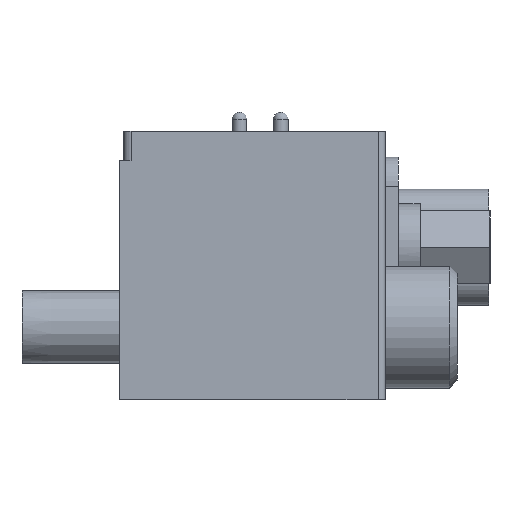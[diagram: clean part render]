
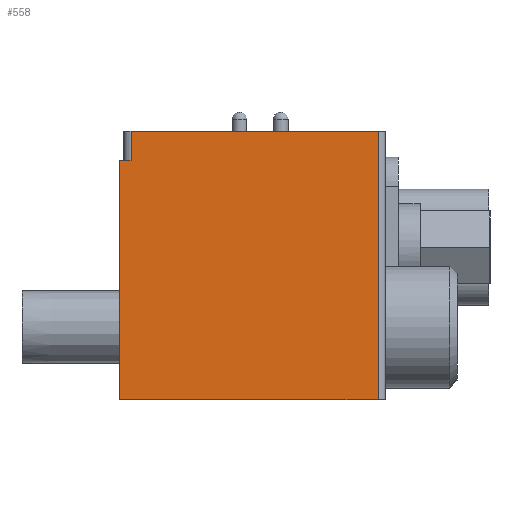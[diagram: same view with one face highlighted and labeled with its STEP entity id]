
A CAD part, left-side view. The second image highlights one B-rep face of the part: STEP entity #558.
In plain terms, the highlighted planar face has unit normal (-1, 0, 0).
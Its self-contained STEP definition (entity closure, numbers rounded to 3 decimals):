
#558=ADVANCED_FACE('',(#1363),#1364,.F.);
#1363=FACE_OUTER_BOUND('',#2486,.T.);
#1364=PLANE('',#2487);
#2486=EDGE_LOOP('',(#3953,#3954,#3955,#3956,#3957,#3958));
#2487=AXIS2_PLACEMENT_3D('',#3959,#3960,#3961);
#3953=ORIENTED_EDGE('',*,*,#5909,.T.);
#3954=ORIENTED_EDGE('',*,*,#5722,.F.);
#3955=ORIENTED_EDGE('',*,*,#5910,.F.);
#3956=ORIENTED_EDGE('',*,*,#5911,.T.);
#3957=ORIENTED_EDGE('',*,*,#5881,.T.);
#3958=ORIENTED_EDGE('',*,*,#5786,.F.);
#3959=CARTESIAN_POINT('',(-32.5,-0.3,11.5));
#3960=DIRECTION('',(1.0,0.0,0.0));
#3961=DIRECTION('',(0.0,1.0,0.0));
#5722=EDGE_CURVE('',#6671,#6662,#6673,.T.);
#5786=EDGE_CURVE('',#6778,#6780,#6781,.T.);
#5881=EDGE_CURVE('',#6929,#6780,#6930,.T.);
#5909=EDGE_CURVE('',#6778,#6662,#6972,.T.);
#5910=EDGE_CURVE('',#6973,#6671,#6974,.T.);
#5911=EDGE_CURVE('',#6973,#6929,#6975,.T.);
#6662=VERTEX_POINT('',#7956);
#6671=VERTEX_POINT('',#7967);
#6673=LINE('',#7970,#7971);
#6778=VERTEX_POINT('',#8098);
#6780=VERTEX_POINT('',#8100);
#6781=LINE('',#8101,#8102);
#6929=VERTEX_POINT('',#8293);
#6930=LINE('',#8294,#8295);
#6972=LINE('',#8350,#8351);
#6973=VERTEX_POINT('',#8352);
#6974=LINE('',#8353,#8354);
#6975=LINE('',#8355,#8356);
#7956=CARTESIAN_POINT('',(-32.5,-0.8,11.5));
#7967=CARTESIAN_POINT('',(-32.5,0.,11.5));
#7970=CARTESIAN_POINT('',(-32.5,0.,11.5));
#7971=VECTOR('',#9365,1.0);
#8098=CARTESIAN_POINT('',(-32.5,-0.8,13.5));
#8100=CARTESIAN_POINT('',(-32.5,-17.8,13.5));
#8101=CARTESIAN_POINT('',(-32.5,-0.3,13.5));
#8102=VECTOR('',#9469,1.0);
#8293=CARTESIAN_POINT('',(-32.5,-17.8,-5.0));
#8294=CARTESIAN_POINT('',(-32.5,-17.8,11.5));
#8295=VECTOR('',#9591,1.0);
#8350=CARTESIAN_POINT('',(-32.5,-0.8,11.5));
#8351=VECTOR('',#9620,1.0);
#8352=CARTESIAN_POINT('',(-32.5,0.,-5.0));
#8353=CARTESIAN_POINT('',(-32.5,0.,-5.0));
#8354=VECTOR('',#9621,1.0);
#8355=CARTESIAN_POINT('',(-32.5,0.,-5.0));
#8356=VECTOR('',#9622,1.0);
#9365=DIRECTION('',(0.0,-1.0,0.0));
#9469=DIRECTION('',(0.0,-1.0,0.0));
#9591=DIRECTION('',(0.0,0.0,1.0));
#9620=DIRECTION('',(0.0,0.0,-1.0));
#9621=DIRECTION('',(0.0,0.0,1.0));
#9622=DIRECTION('',(0.0,-1.0,0.0));
